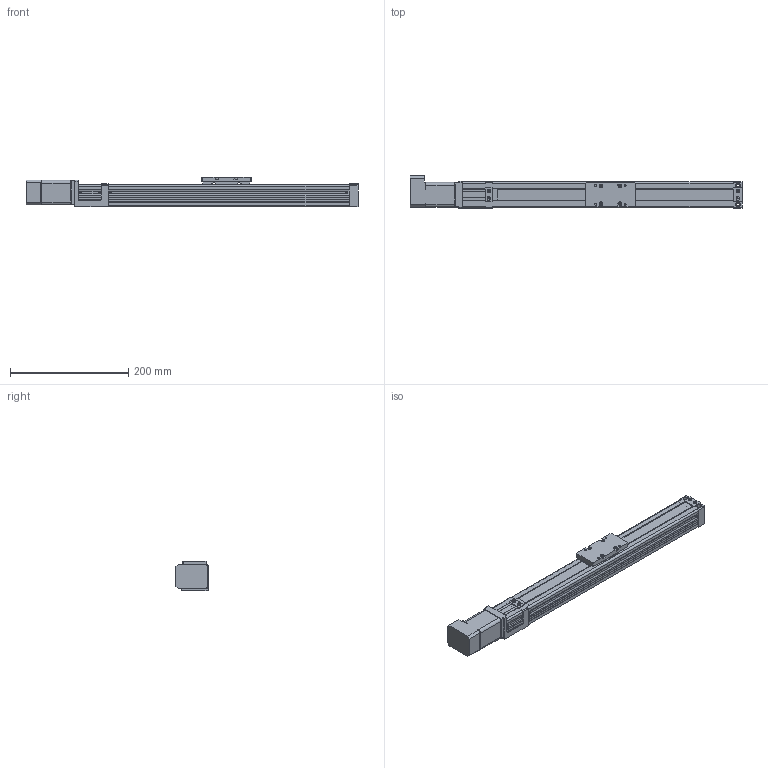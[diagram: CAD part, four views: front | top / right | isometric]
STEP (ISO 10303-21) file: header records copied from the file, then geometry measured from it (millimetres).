
FILE_DESCRIPTION((''),'2;1');
FILE_NAME('D:\製品 (図面)\カタログ用3D\SU部品\SU45×50\ダウンロード用\SU45×50-CM18\SU45×50-300-CM18.stp','2011-06-17T14:56:19',('Tsuchiya'),(''),'Autodesk Inventor 10','Autodesk Inventor 10','');
FILE_SCHEMA(('AUTOMOTIVE_DESIGN { 1 0 10303 214 1 1 1 1 }'));
Length unit declared in the file: millimetre
Products named in the file (4): SU45×50-300-CM18; SB45×50-300-MB42-1(1); SU45×50-T(1); マッスルモーター
Assembly tree (3 placements, depth 2):
  SU45×50-300-CM18
    SB45×50-300-MB42-1(1)
    SU45×50-T(1)
    マッスルモーター
Bounding box: 562.5 x 54.5 x 50 mm (x, y, z)
Volume: 453408.7 mm3; surface area: 214681.9 mm2
Topology: 3 solids, 3 shells, 742 faces, 1981 edges, 1302 vertices
Faces by surface type: plane 540, cylinder 99, bspline 67, torus 22, cone 14
Full cylindrical faces by diameter (mm): 2.459 x4, 3.242 x4, 3.4 x4, 4.5 x4, 5 x5, 6 x5, 7 x6, 8 x7, 10 x1, 20 x1, 22 x2, 30 x1
Entity records: 22908 total; most frequent: CARTESIAN_POINT 5116, ORIENTED_EDGE 3630, DIRECTION 3432, EDGE_CURVE 1815, VECTOR 1394, LINE 1394, VERTEX_POINT 1255, AXIS2_PLACEMENT_3D 1019
